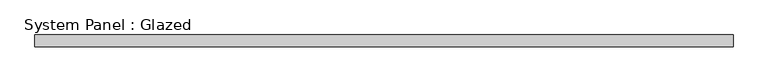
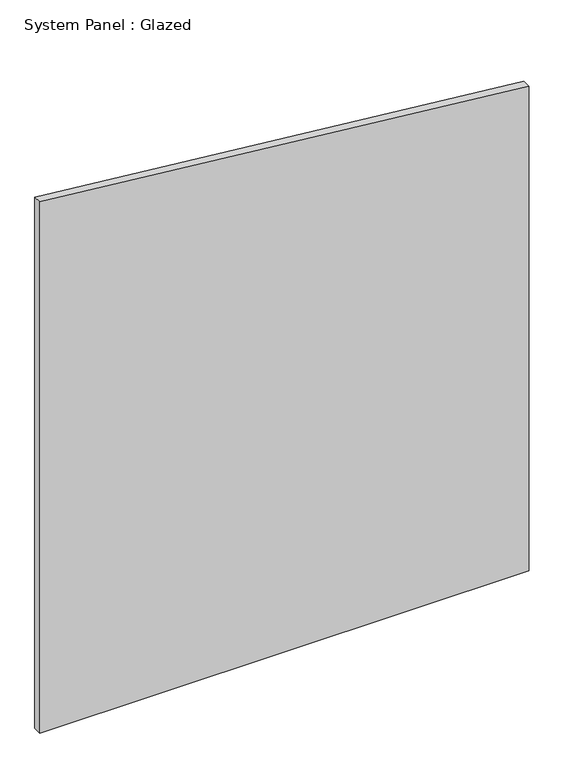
"""IFC4 building model written with IfcOpenShell, lengths in millimetres: plate geometry, System Panel : Glazed."""

import ifcopenshell
import ifcopenshell.guid

model = None  # the IFC model being written
_history = None  # IfcOwnerHistory: only IFC2X3 demands one
_inside = {}  # id of a spatial element -> (the spatial element, [elements in it])
_under = {}  # id of a project, library or spatial element -> (it, [spatial elements below it])
_declared = {}  # id of a project -> (the project, [libraries it declares])
_typed = {}  # id of a type object -> (the type object, [elements of that type])
_made_of = {}  # id of a material, layer set ... -> (it, [elements and type objects made of it])


def new_model(schema):
    """Start an empty IFC model of exactly this schema.

    Asked for "IFC4X3", IfcOpenShell would pick the latest addendum, in which some entities
    have other attributes; the version numbers below select the first issue.
    IFC2X3 requires an IfcOwnerHistory on every rooted entity: one is made here for all.
    """
    global model, _history
    if schema == "IFC4X3":
        model = ifcopenshell.file(schema_version=(4, 3, 0, 0))
    else:
        model = ifcopenshell.file(schema=schema)
    _inside.clear()
    _under.clear()
    _declared.clear()
    _typed.clear()
    _made_of.clear()
    _history = None
    if model.schema == "IFC2X3":
        org = make("IfcOrganization", Name="unknown")
        user = make(
            "IfcPersonAndOrganization",
            ThePerson=make("IfcPerson", FamilyName="unknown"),
            TheOrganization=org,
        )
        app = make(
            "IfcApplication",
            ApplicationDeveloper=org,
            Version="unknown",
            ApplicationFullName="unknown",
            ApplicationIdentifier="unknown",
        )
        _history = make(
            "IfcOwnerHistory",
            OwningUser=user,
            OwningApplication=app,
            ChangeAction="ADDED",
            CreationDate=0,
        )
    return model


def make(cls, **values):
    """One entity of the class cls with the attributes given. An attribute that is None is left unset."""
    return model.create_entity(
        cls, **{name: value for name, value in values.items() if value is not None}
    )


def rooted(cls, **values):
    """An entity with a GlobalId (a new one), such as an element, a storey or a relation."""
    return make(cls, GlobalId=ifcopenshell.guid.new(), OwnerHistory=_history, **values)


def si_unit(unit_type, name, prefix=None):
    """IfcSIUnit, for example si_unit("LENGTHUNIT", "METRE", prefix="MILLI")."""
    return make("IfcSIUnit", UnitType=unit_type, Prefix=prefix, Name=name)


def assignment(units):
    """IfcUnitAssignment: the units of a project."""
    return None if units is None else make("IfcUnitAssignment", Units=units)


def point(xyz):
    """IfcCartesianPoint."""
    return None if xyz is None else make("IfcCartesianPoint", Coordinates=xyz)


def direction(xyz):
    """IfcDirection."""
    return None if xyz is None else make("IfcDirection", DirectionRatios=xyz)


def frame(location, z_axis=None, x_axis=None):
    """IfcAxis2Placement3D, a coordinate frame: its origin and axes. An axis left out is left unset."""
    return make(
        "IfcAxis2Placement3D",
        Location=point(location),
        Axis=direction(z_axis),
        RefDirection=direction(x_axis),
    )


def origin():
    """The frame at (0, 0, 0) with its axes left unset."""
    return frame((0.0, 0.0, 0.0))


def place(relative_to, where):
    """IfcLocalPlacement: puts the frame where relative to a parent placement (None: the world)."""
    return make(
        "IfcLocalPlacement", PlacementRelTo=relative_to, RelativePlacement=where
    )


def context(
    kind, dimensions, precision=None, world=None, true_north=None, identifier=None
):
    """IfcGeometricRepresentationContext, for example the 3D "Model" context."""
    return make(
        "IfcGeometricRepresentationContext",
        ContextIdentifier=identifier,
        ContextType=kind,
        CoordinateSpaceDimension=dimensions,
        Precision=precision,
        WorldCoordinateSystem=world,
        TrueNorth=true_north,
    )


def project(units=None, contexts=None):
    """IfcProject with its units and contexts."""
    return rooted(
        "IfcProject",
        Name="project",
        RepresentationContexts=contexts,
        UnitsInContext=assignment(units),
    )


def spatial(cls, under=None, at=None, **own):
    """A site, building, storey or space (cls), placed at a placement, below another one or the project."""
    s = rooted(cls, ObjectPlacement=at, **own)
    if under is not None:
        _under.setdefault(under.id(), (under, []))[1].append(s)
    return s


def polyline(points):
    """IfcPolyline through the points."""
    return make("IfcPolyline", Points=[point(p) for p in points])


def outline(outer, holes=None, kind="AREA"):
    """IfcArbitraryClosedProfileDef: a profile drawn as a closed curve; with holes, ...WithVoids."""
    if holes is None:
        return make("IfcArbitraryClosedProfileDef", ProfileType=kind, OuterCurve=outer)
    return make(
        "IfcArbitraryProfileDefWithVoids",
        ProfileType=kind,
        OuterCurve=outer,
        InnerCurves=holes,
    )


def extrude(swept, where, along, depth):
    """IfcExtrudedAreaSolid: the profile swept, set in the frame where, extruded along a direction by depth."""
    return make(
        "IfcExtrudedAreaSolid",
        SweptArea=swept,
        Position=where,
        ExtrudedDirection=direction(along),
        Depth=depth,
    )


def shape(context_of_items, identifier, shape_type, items):
    """IfcShapeRepresentation: the items that make up one representation, for example the "Body"."""
    return make(
        "IfcShapeRepresentation",
        ContextOfItems=context_of_items,
        RepresentationIdentifier=identifier,
        RepresentationType=shape_type,
        Items=items,
    )


def source(mapping_origin, context_of_items, identifier, shape_type, items):
    """IfcRepresentationMap: a shape defined once, which mapped items show again and again."""
    return make(
        "IfcRepresentationMap",
        MappingOrigin=mapping_origin,
        MappedRepresentation=shape(context_of_items, identifier, shape_type, items),
    )


def transform(
    local_origin,
    x_axis=None,
    y_axis=None,
    z_axis=None,
    scale=None,
    scale2=None,
    scale3=None,
    uniform=True,
):
    """IfcCartesianTransformationOperator3D, or its non-uniform kind. x_axis, y_axis, z_axis: its Axis1, 2, 3."""
    if uniform:
        return make(
            "IfcCartesianTransformationOperator3D",
            Axis1=direction(x_axis),
            Axis2=direction(y_axis),
            LocalOrigin=point(local_origin),
            Scale=scale,
            Axis3=direction(z_axis),
        )
    return make(
        "IfcCartesianTransformationOperator3DnonUniform",
        Axis1=direction(x_axis),
        Axis2=direction(y_axis),
        LocalOrigin=point(local_origin),
        Scale=scale,
        Axis3=direction(z_axis),
        Scale2=scale2,
        Scale3=scale3,
    )


def mapped(mapping_source, mapping_target):
    """IfcMappedItem: shows the shape of a source again, moved by a transform."""
    return make(
        "IfcMappedItem", MappingSource=mapping_source, MappingTarget=mapping_target
    )


def made_of(thing, what):
    """Note that an element or type object is made of a material, layer set ...; save() writes the relation."""
    if what is not None:
        _made_of.setdefault(what.id(), (what, []))[1].append(thing)
    return thing


def element(
    cls,
    number,
    at=None,
    inside=None,
    cuts=None,
    type_object=None,
    material=None,
    context=None,
    identifier="Body",
    shape_type=None,
    held_by="IfcProductDefinitionShape",
    body=None,
    shapes=None,
    **own,
):
    """One element of the class cls, such as IfcWall. Its Tag is "e" and its number.

    at: its placement. inside: the storey or other place that contains it. cuts: it is an
    opening in that element (IfcRelVoidsElement). A single representation is given by context,
    identifier, shape_type and body (its items); several are given by shapes. held_by: the class
    of the entity that holds the representations. save() writes the other relations.
    """
    e = rooted(cls, Tag="e%d" % number, ObjectPlacement=at, **own)
    if body is not None:
        shapes = [shape(context, identifier, shape_type, body)]
    if shapes is not None:
        e.Representation = make(held_by, Representations=shapes)
    if inside is not None:
        _inside.setdefault(inside.id(), (inside, []))[1].append(e)
    if cuts is not None:
        rooted(
            "IfcRelVoidsElement", RelatingBuildingElement=cuts, RelatedOpeningElement=e
        )
    if type_object is not None:
        _typed.setdefault(type_object.id(), (type_object, []))[1].append(e)
    return made_of(e, material)


def aggregate(whole, parts):
    """IfcRelAggregates: a whole, such as a stair, and the parts it consists of."""
    return rooted("IfcRelAggregates", RelatingObject=whole, RelatedObjects=parts)


def save(model, path):
    """Write the relations noted so far, then the file.

    IfcRelAggregates (storeys below a building ...), IfcRelContainedInSpatialStructure (elements
    in a storey), IfcRelDefinesByType, IfcRelAssociatesMaterial and IfcRelDeclares: one each for
    every whole, place, type object, material and project.
    """
    for whole, parts in _under.values():
        aggregate(whole, parts)
    for where, things in _inside.values():
        rooted(
            "IfcRelContainedInSpatialStructure",
            RelatedElements=things,
            RelatingStructure=where,
        )
    for kind, things in _typed.values():
        rooted("IfcRelDefinesByType", RelatedObjects=things, RelatingType=kind)
    for what, things in _made_of.values():
        rooted("IfcRelAssociatesMaterial", RelatedObjects=things, RelatingMaterial=what)
    for by, libraries in _declared.values():
        rooted("IfcRelDeclares", RelatingContext=by, RelatedDefinitions=libraries)
    model.write(path)


def system_panel_glazed_a913883c(model_context):
    return source(origin(), model_context, "Body", "SweptSolid", [
        extrude(outline(polyline([(0.0, -735.8695652), (0.0, 735.8695652), (1540.4813972, 735.8695652), (1688.4643759, -735.8695652), (0.0, -735.8695652)])), frame((0.0, 24.5, 0.0), z_axis=(0.0, 1.0, 0.0), x_axis=(0.0, 0.0, 1.0)), (0.0, 0.0, 1.0), 25.0),
    ])


if __name__ == "__main__":
    model = new_model("IFC4")
    model_context = context("Model", 3, world=origin())
    ifc_project = project(units=[si_unit("LENGTHUNIT", "METRE", prefix="MILLI")], contexts=[model_context])
    site = spatial("IfcSite", under=ifc_project)
    building = spatial("IfcBuilding", under=site)
    placement = place(None, origin())
    system_panel_glazed_shape = system_panel_glazed_a913883c(model_context)
    element("IfcPlate", 1, ObjectType="System Panel : Glazed", at=placement, inside=building, context=model_context, shape_type="MappedRepresentation", body=[
        mapped(system_panel_glazed_shape, transform((0.0, 0.0, 0.0), x_axis=(1.0, 0.0, 0.0), y_axis=(0.0, 1.0, 0.0), z_axis=(0.0, 0.0, 1.0))),
    ])
    save(model, "model.ifc")
